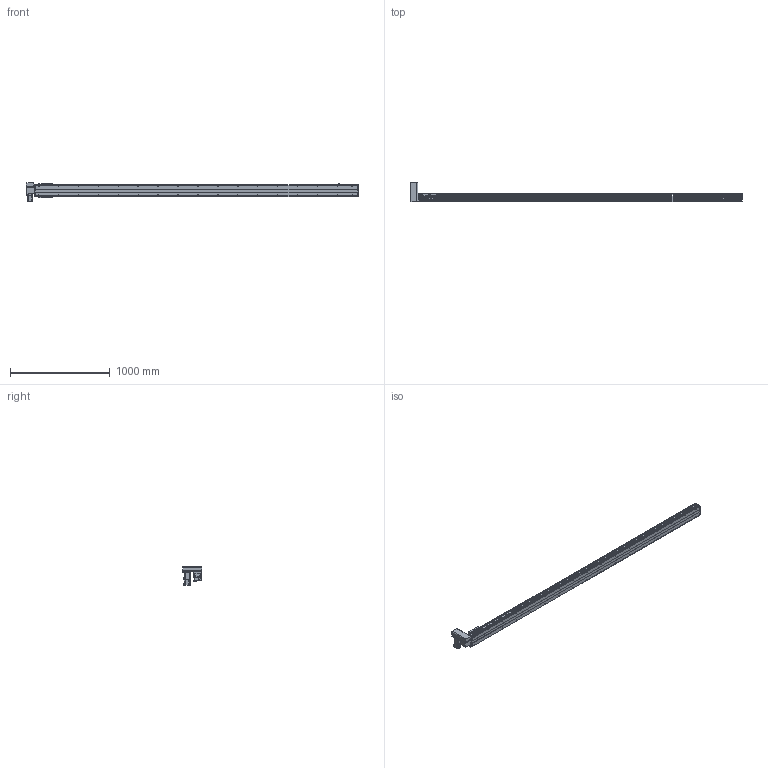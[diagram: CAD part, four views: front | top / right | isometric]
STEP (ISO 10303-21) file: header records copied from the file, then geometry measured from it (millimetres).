
FILE_DESCRIPTION(/* description */ ('STEP AP214'),/* implementation_level */ '2;1');
FILE_NAME(/* name */ 'PBS120-P40-S2950-RU-T40-C1-N(0)',/* time_stamp */ '2022-06-06T02:52:14+02:00',/* author */ ('License CC BY-ND 4.0'),/* organization */ ('CADENAS'),/* preprocessor_version */ 'ST-DEVELOPER v18.102',/* originating_system */ 'PARTsolutions',/* authorisation */ ' ');
FILE_SCHEMA (('AUTOMOTIVE_DESIGN {1 0 10303 214 3 1 1}'));
Length unit declared in the file: millimetre
Products named in the file (7): PBS120-P40-S2950-RU-T40-C1-N(0); PBS120_sensor; PBS120_plant; PBS120_sliser; T40-p1; PBS120T-RU_motors; PBS120-S2950()_body
Assembly tree (8 placements, depth 2):
  PBS120-P40-S2950-RU-T40-C1-N(0)
    PBS120_sensor  x3
    PBS120_plant
    PBS120_sliser
    T40-p1
    PBS120T-RU_motors
    PBS120-S2950()_body
Bounding box: 3336 x 198 x 189.7 mm (x, y, z)
Volume: 12308451.7 mm3; surface area: 2564156.5 mm2
Topology: 8 solids, 8 shells, 882 faces, 2246 edges, 1441 vertices
Faces by surface type: plane 567, cylinder 247, cone 66, torus 2
Full cylindrical faces by diameter (mm): 2.459 x6, 3.242 x4, 4 x2, 4.134 x4, 4.5 x10, 4.917 x38, 5.5 x11, 6 x2, 6.6 x1, 7 x2, 8.5 x4, 9 x4, 12 x1, 14 x1, 30 x2, 40 x1, 50 x2
Entity records: 22674 total; most frequent: DIRECTION 3956, CARTESIAN_POINT 3839, ORIENTED_EDGE 3610, EDGE_CURVE 1805, AXIS2_PLACEMENT_3D 1364, VERTEX_POINT 1247, LINE 1228, VECTOR 1228
